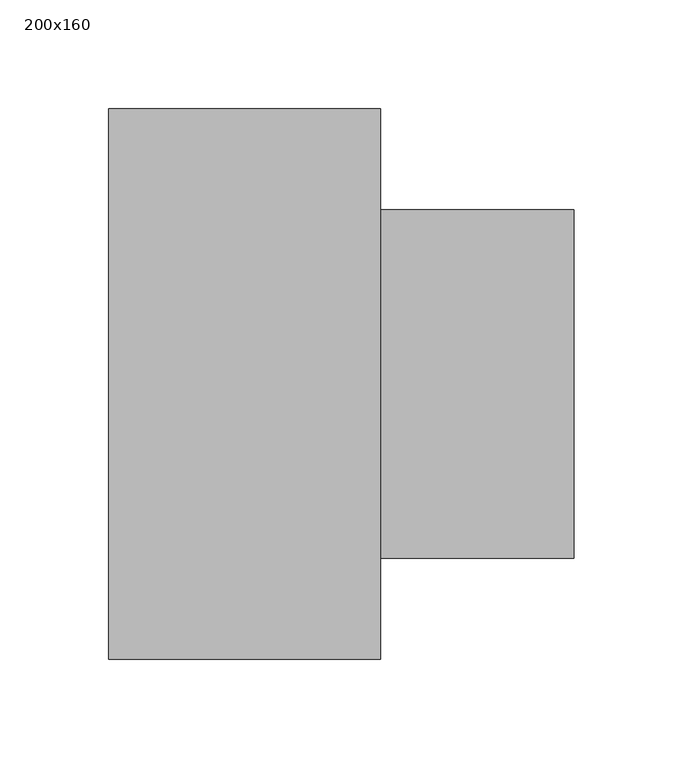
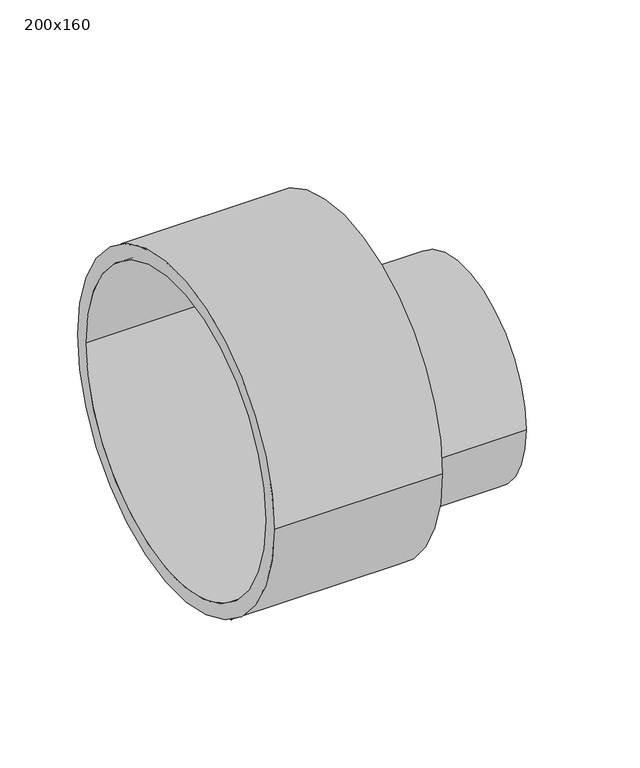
"""IFC4 building model written with IfcOpenShell, lengths in millimetres: pipe fitting geometry, Pipelife - Pragma +ID - Redukcja kanalizacyjna kielich : 200x160."""

import ifcopenshell
import ifcopenshell.guid

model = None  # the IFC model being written
_history = None  # IfcOwnerHistory: only IFC2X3 demands one
_inside = {}  # id of a spatial element -> (the spatial element, [elements in it])
_under = {}  # id of a project, library or spatial element -> (it, [spatial elements below it])
_declared = {}  # id of a project -> (the project, [libraries it declares])
_typed = {}  # id of a type object -> (the type object, [elements of that type])
_made_of = {}  # id of a material, layer set ... -> (it, [elements and type objects made of it])


def new_model(schema):
    """Start an empty IFC model of exactly this schema.

    Asked for "IFC4X3", IfcOpenShell would pick the latest addendum, in which some entities
    have other attributes; the version numbers below select the first issue.
    IFC2X3 requires an IfcOwnerHistory on every rooted entity: one is made here for all.
    """
    global model, _history
    if schema == "IFC4X3":
        model = ifcopenshell.file(schema_version=(4, 3, 0, 0))
    else:
        model = ifcopenshell.file(schema=schema)
    _inside.clear()
    _under.clear()
    _declared.clear()
    _typed.clear()
    _made_of.clear()
    _history = None
    if model.schema == "IFC2X3":
        org = make("IfcOrganization", Name="unknown")
        user = make(
            "IfcPersonAndOrganization",
            ThePerson=make("IfcPerson", FamilyName="unknown"),
            TheOrganization=org,
        )
        app = make(
            "IfcApplication",
            ApplicationDeveloper=org,
            Version="unknown",
            ApplicationFullName="unknown",
            ApplicationIdentifier="unknown",
        )
        _history = make(
            "IfcOwnerHistory",
            OwningUser=user,
            OwningApplication=app,
            ChangeAction="ADDED",
            CreationDate=0,
        )
    return model


def make(cls, **values):
    """One entity of the class cls with the attributes given. An attribute that is None is left unset."""
    return model.create_entity(
        cls, **{name: value for name, value in values.items() if value is not None}
    )


def rooted(cls, **values):
    """An entity with a GlobalId (a new one), such as an element, a storey or a relation."""
    return make(cls, GlobalId=ifcopenshell.guid.new(), OwnerHistory=_history, **values)


def si_unit(unit_type, name, prefix=None):
    """IfcSIUnit, for example si_unit("LENGTHUNIT", "METRE", prefix="MILLI")."""
    return make("IfcSIUnit", UnitType=unit_type, Prefix=prefix, Name=name)


def assignment(units):
    """IfcUnitAssignment: the units of a project."""
    return None if units is None else make("IfcUnitAssignment", Units=units)


def point(xyz):
    """IfcCartesianPoint."""
    return None if xyz is None else make("IfcCartesianPoint", Coordinates=xyz)


def direction(xyz):
    """IfcDirection."""
    return None if xyz is None else make("IfcDirection", DirectionRatios=xyz)


def frame(location, z_axis=None, x_axis=None):
    """IfcAxis2Placement3D, a coordinate frame: its origin and axes. An axis left out is left unset."""
    return make(
        "IfcAxis2Placement3D",
        Location=point(location),
        Axis=direction(z_axis),
        RefDirection=direction(x_axis),
    )


def origin():
    """The frame at (0, 0, 0) with its axes left unset."""
    return frame((0.0, 0.0, 0.0))


def place(relative_to, where):
    """IfcLocalPlacement: puts the frame where relative to a parent placement (None: the world)."""
    return make(
        "IfcLocalPlacement", PlacementRelTo=relative_to, RelativePlacement=where
    )


def context(
    kind, dimensions, precision=None, world=None, true_north=None, identifier=None
):
    """IfcGeometricRepresentationContext, for example the 3D "Model" context."""
    return make(
        "IfcGeometricRepresentationContext",
        ContextIdentifier=identifier,
        ContextType=kind,
        CoordinateSpaceDimension=dimensions,
        Precision=precision,
        WorldCoordinateSystem=world,
        TrueNorth=true_north,
    )


def project(units=None, contexts=None):
    """IfcProject with its units and contexts."""
    return rooted(
        "IfcProject",
        Name="project",
        RepresentationContexts=contexts,
        UnitsInContext=assignment(units),
    )


def spatial(cls, under=None, at=None, **own):
    """A site, building, storey or space (cls), placed at a placement, below another one or the project."""
    s = rooted(cls, ObjectPlacement=at, **own)
    if under is not None:
        _under.setdefault(under.id(), (under, []))[1].append(s)
    return s


def polyline(points):
    """IfcPolyline through the points."""
    return make("IfcPolyline", Points=[point(p) for p in points])


def circle_curve(where, radius):
    """IfcCircle in the frame where."""
    return make("IfcCircle", Position=where, Radius=radius)


def shape(context_of_items, identifier, shape_type, items):
    """IfcShapeRepresentation: the items that make up one representation, for example the "Body"."""
    return make(
        "IfcShapeRepresentation",
        ContextOfItems=context_of_items,
        RepresentationIdentifier=identifier,
        RepresentationType=shape_type,
        Items=items,
    )


def source(mapping_origin, context_of_items, identifier, shape_type, items):
    """IfcRepresentationMap: a shape defined once, which mapped items show again and again."""
    return make(
        "IfcRepresentationMap",
        MappingOrigin=mapping_origin,
        MappedRepresentation=shape(context_of_items, identifier, shape_type, items),
    )


def transform(
    local_origin,
    x_axis=None,
    y_axis=None,
    z_axis=None,
    scale=None,
    scale2=None,
    scale3=None,
    uniform=True,
):
    """IfcCartesianTransformationOperator3D, or its non-uniform kind. x_axis, y_axis, z_axis: its Axis1, 2, 3."""
    if uniform:
        return make(
            "IfcCartesianTransformationOperator3D",
            Axis1=direction(x_axis),
            Axis2=direction(y_axis),
            LocalOrigin=point(local_origin),
            Scale=scale,
            Axis3=direction(z_axis),
        )
    return make(
        "IfcCartesianTransformationOperator3DnonUniform",
        Axis1=direction(x_axis),
        Axis2=direction(y_axis),
        LocalOrigin=point(local_origin),
        Scale=scale,
        Axis3=direction(z_axis),
        Scale2=scale2,
        Scale3=scale3,
    )


def mapped(mapping_source, mapping_target):
    """IfcMappedItem: shows the shape of a source again, moved by a transform."""
    return make(
        "IfcMappedItem", MappingSource=mapping_source, MappingTarget=mapping_target
    )


def made_of(thing, what):
    """Note that an element or type object is made of a material, layer set ...; save() writes the relation."""
    if what is not None:
        _made_of.setdefault(what.id(), (what, []))[1].append(thing)
    return thing


def element(
    cls,
    number,
    at=None,
    inside=None,
    cuts=None,
    type_object=None,
    material=None,
    context=None,
    identifier="Body",
    shape_type=None,
    held_by="IfcProductDefinitionShape",
    body=None,
    shapes=None,
    **own,
):
    """One element of the class cls, such as IfcWall. Its Tag is "e" and its number.

    at: its placement. inside: the storey or other place that contains it. cuts: it is an
    opening in that element (IfcRelVoidsElement). A single representation is given by context,
    identifier, shape_type and body (its items); several are given by shapes. held_by: the class
    of the entity that holds the representations. save() writes the other relations.
    """
    e = rooted(cls, Tag="e%d" % number, ObjectPlacement=at, **own)
    if body is not None:
        shapes = [shape(context, identifier, shape_type, body)]
    if shapes is not None:
        e.Representation = make(held_by, Representations=shapes)
    if inside is not None:
        _inside.setdefault(inside.id(), (inside, []))[1].append(e)
    if cuts is not None:
        rooted(
            "IfcRelVoidsElement", RelatingBuildingElement=cuts, RelatedOpeningElement=e
        )
    if type_object is not None:
        _typed.setdefault(type_object.id(), (type_object, []))[1].append(e)
    return made_of(e, material)


def aggregate(whole, parts):
    """IfcRelAggregates: a whole, such as a stair, and the parts it consists of."""
    return rooted("IfcRelAggregates", RelatingObject=whole, RelatedObjects=parts)


def save(model, path):
    """Write the relations noted so far, then the file.

    IfcRelAggregates (storeys below a building ...), IfcRelContainedInSpatialStructure (elements
    in a storey), IfcRelDefinesByType, IfcRelAssociatesMaterial and IfcRelDeclares: one each for
    every whole, place, type object, material and project.
    """
    for whole, parts in _under.values():
        aggregate(whole, parts)
    for where, things in _inside.values():
        rooted(
            "IfcRelContainedInSpatialStructure",
            RelatedElements=things,
            RelatingStructure=where,
        )
    for kind, things in _typed.values():
        rooted("IfcRelDefinesByType", RelatedObjects=things, RelatingType=kind)
    for what, things in _made_of.values():
        rooted("IfcRelAssociatesMaterial", RelatedObjects=things, RelatingMaterial=what)
    for by, libraries in _declared.values():
        rooted("IfcRelDeclares", RelatingContext=by, RelatedDefinitions=libraries)
    model.write(path)


def plane_surface(at):
    """IfcPlane: the flat surface through the origin of the frame at, square to its z axis."""
    return make("IfcPlane", Position=at)


def cylinder_surface(at, radius):
    """IfcCylindricalSurface: all points at the distance radius from the z axis of the frame at."""
    return make("IfcCylindricalSurface", Position=at, Radius=radius)


def revolved_surface(curve, axis_point, axis_direction):
    """IfcSurfaceOfRevolution: the curve turned about the line through axis_point along axis_direction."""
    return make(
        "IfcSurfaceOfRevolution",
        SweptCurve=make("IfcArbitraryOpenProfileDef", ProfileType="CURVE", Curve=curve),
        AxisPosition=make("IfcAxis1Placement", Location=point(axis_point), Axis=direction(axis_direction)),
    )


def advanced_brep(points, edges, surfaces, faces):
    """IfcAdvancedBrep: a solid bounded by faces that lie on surfaces and meet in shared edges.

    An edge is (start, end): straight between two places in points (the first is 0);
    or (start, end, curve); or (start, end, curve, False) where it runs against its curve.
    A face is (place in surfaces, loops), or (place, loops, False) where it looks against
    its surface's normal. A loop lists edges by number (the first is 1), with a minus sign
    where the edge is run from its end to its start. The first loop is the outer one.
    """
    corners = [point(p) for p in points]
    vertices = [make("IfcVertexPoint", VertexGeometry=c) for c in corners]
    made = []
    for start, end, *more in edges:
        made.append(
            make(
                "IfcEdgeCurve",
                EdgeStart=vertices[start],
                EdgeEnd=vertices[end],
                EdgeGeometry=more[0] if more else make("IfcPolyline", Points=[corners[start], corners[end]]),
                SameSense=more[1] if len(more) > 1 else True,
            )
        )
    hull = []
    for where, loops, *sense in faces:
        bounds = []
        for j, loop in enumerate(loops):
            ring = [make("IfcOrientedEdge", EdgeElement=made[abs(k) - 1], Orientation=k > 0) for k in loop]
            bounds.append(
                make(
                    "IfcFaceOuterBound" if j == 0 else "IfcFaceBound",
                    Bound=make("IfcEdgeLoop", EdgeList=ring),
                    Orientation=True,
                )
            )
        hull.append(make("IfcAdvancedFace", Bounds=bounds, FaceSurface=surfaces[where], SameSense=sense[0] if sense else True))
    return make("IfcAdvancedBrep", Outer=make("IfcClosedShell", CfsFaces=hull))


def pipe_fitting_200x160_0dcb651a(model_context):
    return source(origin(), model_context, "Body", "AdvancedBrep", [
        advanced_brep(
        [(-122.0, -126.5, 0.0), (-122.0, 126.5, 0.0), (-122.0, 115.5, 0.0), (-122.0, -115.5, 0.0), (3.0, -126.5, 0.0), (3.0, 126.5, 0.0), (3.0, -80.0, -25.0), (3.0, 80.0, -25.0), (-5.0, -115.5, 0.0), (-5.0, 115.5, 0.0), (92.0, -80.0, -25.0), (92.0, 80.0, -25.0)],
        [
            (0, 1, circle_curve(frame((-122.0, 0.0, 0.0), z_axis=(-1.0, 0.0, 0.0), x_axis=(0.0, 1.0, 0.0)), 126.5)),
            (1, 0, circle_curve(frame((-122.0, 0.0, 0.0), z_axis=(-1.0, 0.0, 0.0), x_axis=(0.0, 1.0, 0.0)), 126.5)),
            (2, 3, circle_curve(frame((-122.0, 0.0, 0.0), z_axis=(1.0, 0.0, 0.0), x_axis=(0.0, 1.0, 0.0)), 115.5)),
            (3, 2, circle_curve(frame((-122.0, 0.0, 0.0), z_axis=(1.0, 0.0, 0.0), x_axis=(0.0, 1.0, 0.0)), 115.5)),
            (4, 5, circle_curve(frame((3.0, 0.0, 0.0), z_axis=(1.0, 0.0, 0.0), x_axis=(0.0, 1.0, 0.0)), 126.5)),
            (5, 4, circle_curve(frame((3.0, 0.0, 0.0), z_axis=(1.0, 0.0, 0.0), x_axis=(0.0, 1.0, 0.0)), 126.5)),
            (6, 7, circle_curve(frame((3.0, 0.0, -25.0), z_axis=(-1.0, 0.0, 0.0), x_axis=(0.0, 1.0, 0.0)), 80.0)),
            (7, 6, circle_curve(frame((3.0, 0.0, -25.0), z_axis=(-1.0, 0.0, 0.0), x_axis=(0.0, 1.0, 0.0)), 80.0)),
            (0, 4),
            (5, 1),
            (8, 9, circle_curve(frame((-5.0, 0.0, 0.0), z_axis=(-1.0, 0.0, 0.0), x_axis=(0.0, 1.0, 0.0)), 115.5)),
            (9, 8, circle_curve(frame((-5.0, 0.0, 0.0), z_axis=(-1.0, 0.0, 0.0), x_axis=(0.0, 1.0, 0.0)), 115.5)),
            (8, 3),
            (2, 9),
            (10, 11, circle_curve(frame((92.0, 0.0, -25.0), z_axis=(1.0, 0.0, 0.0), x_axis=(0.0, 1.0, 0.0)), 80.0)),
            (11, 10, circle_curve(frame((92.0, 0.0, -25.0), z_axis=(1.0, 0.0, 0.0), x_axis=(0.0, 1.0, 0.0)), 80.0)),
            (11, 7),
            (6, 10),
        ],
        [
            plane_surface(frame((-122.0, 0.0, 0.0), z_axis=(-1.0, 0.0, 0.0), x_axis=(0.0, 0.0, 1.0))),
            plane_surface(frame((3.0, 0.0, 0.0), z_axis=(1.0, 0.0, 0.0), x_axis=(0.0, 0.0, 1.0))),
            cylinder_surface(frame((-122.0, 0.0, 0.0), z_axis=(-1.0, 0.0, 0.0), x_axis=(0.0, 1.0, 0.0)), 126.5),
            plane_surface(frame((-5.0, 0.0, 0.0), z_axis=(-1.0, 0.0, 0.0), x_axis=(0.0, 0.0, 1.0))),
            revolved_surface(polyline([(-122.0, 115.5, 0.0), (-5.0, 115.5, 0.0)]), (-122.0, 0.0, 0.0), (-1.0, 0.0, 0.0)),
            plane_surface(frame((92.0, 0.0, -25.0), z_axis=(1.0, 0.0, 0.0), x_axis=(0.0, 0.0, 1.0))),
            cylinder_surface(frame((3.0, 0.0, -25.0), z_axis=(-1.0, 0.0, 0.0), x_axis=(0.0, 1.0, 0.0)), 80.0),
        ],
        [
            (0, [[1, 2], [3, 4]]),
            (1, [[5, 6], [7, 8]]),
            (2, [[-1, 9, -6, 10]]),
            (2, [[-2, -10, -5, -9]]),
            (3, [[11, 12]]),
            (4, [[-11, 13, -3, 14]]),
            (4, [[-12, -14, -4, -13]]),
            (5, [[15, 16]]),
            (6, [[-16, 17, -7, 18]]),
            (6, [[-15, -18, -8, -17]]),
        ],
    ),
    ])


if __name__ == "__main__":
    model = new_model("IFC4")
    model_context = context("Model", 3, world=origin())
    ifc_project = project(units=[si_unit("LENGTHUNIT", "METRE", prefix="MILLI")], contexts=[model_context])
    site = spatial("IfcSite", under=ifc_project)
    building = spatial("IfcBuilding", under=site)
    placement = place(None, origin())
    pipe_fitting_200x160_shape = pipe_fitting_200x160_0dcb651a(model_context)
    element("IfcPipeFitting", 1, ObjectType="Pipelife - Pragma +ID - Redukcja kanalizacyjna kielich : 200x160", at=placement, inside=building, context=model_context, shape_type="MappedRepresentation", body=[
        mapped(pipe_fitting_200x160_shape, transform((0.0, 0.0, 0.0), x_axis=(1.0, 0.0, 0.0), y_axis=(0.0, 1.0, 0.0), z_axis=(0.0, 0.0, 1.0))),
    ])
    save(model, "model.ifc")
